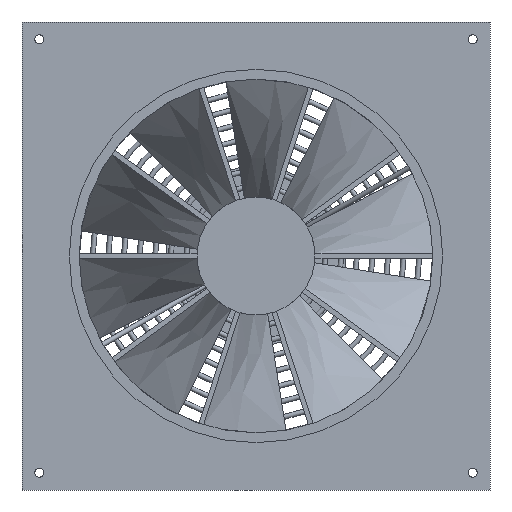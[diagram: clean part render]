
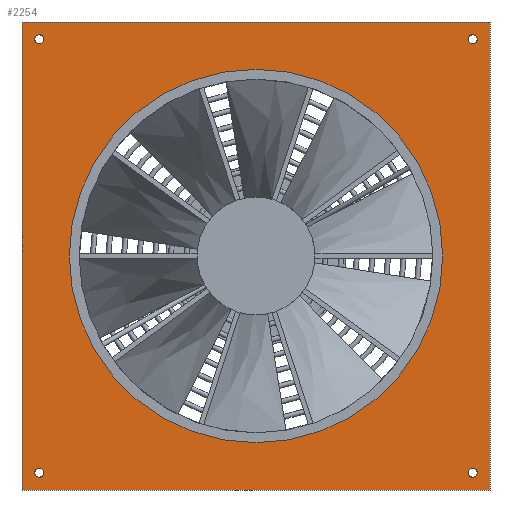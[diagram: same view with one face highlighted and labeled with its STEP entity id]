
A CAD part, front view. The second image highlights one B-rep face of the part: STEP entity #2254.
In plain terms, the highlighted planar face has unit normal (0, -1, 0).
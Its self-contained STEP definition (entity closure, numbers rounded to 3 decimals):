
#135=LINE('',#4945,#273);
#137=LINE('',#4952,#275);
#139=LINE('',#4958,#277);
#140=LINE('',#4960,#278);
#273=VECTOR('',#2796,10.);
#275=VECTOR('',#2804,10.);
#277=VECTOR('',#2810,10.);
#278=VECTOR('',#2813,10.);
#403=PLANE('',#2425);
#453=FACE_BOUND('',#817,.T.);
#454=FACE_BOUND('',#818,.T.);
#455=FACE_BOUND('',#819,.T.);
#456=FACE_BOUND('',#820,.T.);
#457=FACE_BOUND('',#821,.T.);
#527=CIRCLE('',#2414,4.5);
#528=CIRCLE('',#2416,4.5);
#529=CIRCLE('',#2418,4.5);
#530=CIRCLE('',#2420,4.5);
#532=CIRCLE('',#2423,189.5);
#654=FACE_OUTER_BOUND('',#816,.T.);
#816=EDGE_LOOP('',(#2090,#2091,#2092,#2093));
#817=EDGE_LOOP('',(#2094));
#818=EDGE_LOOP('',(#2095));
#819=EDGE_LOOP('',(#2096));
#820=EDGE_LOOP('',(#2097));
#821=EDGE_LOOP('',(#2098));
#1101=VERTEX_POINT('',#4942);
#1102=VERTEX_POINT('',#4944);
#1104=VERTEX_POINT('',#4950);
#1106=VERTEX_POINT('',#4956);
#1122=VERTEX_POINT('',#5119);
#1123=VERTEX_POINT('',#5122);
#1124=VERTEX_POINT('',#5125);
#1125=VERTEX_POINT('',#5128);
#1127=VERTEX_POINT('',#5133);
#1397=EDGE_CURVE('',#1102,#1101,#135,.T.);
#1401=EDGE_CURVE('',#1101,#1104,#137,.T.);
#1404=EDGE_CURVE('',#1104,#1106,#139,.T.);
#1405=EDGE_CURVE('',#1106,#1102,#140,.T.);
#1439=EDGE_CURVE('',#1122,#1122,#527,.T.);
#1440=EDGE_CURVE('',#1123,#1123,#528,.T.);
#1441=EDGE_CURVE('',#1124,#1124,#529,.T.);
#1442=EDGE_CURVE('',#1125,#1125,#530,.T.);
#1444=EDGE_CURVE('',#1127,#1127,#532,.T.);
#2090=ORIENTED_EDGE('',*,*,#1397,.T.);
#2091=ORIENTED_EDGE('',*,*,#1401,.T.);
#2092=ORIENTED_EDGE('',*,*,#1404,.T.);
#2093=ORIENTED_EDGE('',*,*,#1405,.T.);
#2094=ORIENTED_EDGE('',*,*,#1439,.T.);
#2095=ORIENTED_EDGE('',*,*,#1440,.T.);
#2096=ORIENTED_EDGE('',*,*,#1441,.T.);
#2097=ORIENTED_EDGE('',*,*,#1442,.T.);
#2098=ORIENTED_EDGE('',*,*,#1444,.T.);
#2254=ADVANCED_FACE('',(#654,#453,#454,#455,#456,#457),#403,.F.);
#2414=AXIS2_PLACEMENT_3D('',#5120,#2868,#2869);
#2416=AXIS2_PLACEMENT_3D('',#5123,#2872,#2873);
#2418=AXIS2_PLACEMENT_3D('',#5126,#2876,#2877);
#2420=AXIS2_PLACEMENT_3D('',#5129,#2880,#2881);
#2423=AXIS2_PLACEMENT_3D('',#5134,#2886,#2887);
#2425=AXIS2_PLACEMENT_3D('',#5136,#2890,#2891);
#2796=DIRECTION('',(1.,0.,0.));
#2804=DIRECTION('',(0.,0.,1.));
#2810=DIRECTION('',(-1.,0.,0.));
#2813=DIRECTION('',(0.,0.,-1.));
#2868=DIRECTION('center_axis',(0.,1.,0.));
#2869=DIRECTION('ref_axis',(1.,0.,0.));
#2872=DIRECTION('center_axis',(0.,1.,0.));
#2873=DIRECTION('ref_axis',(1.,0.,0.));
#2876=DIRECTION('center_axis',(0.,1.,0.));
#2877=DIRECTION('ref_axis',(1.,0.,0.));
#2880=DIRECTION('center_axis',(0.,1.,0.));
#2881=DIRECTION('ref_axis',(1.,0.,0.));
#2886=DIRECTION('center_axis',(0.,1.,0.));
#2887=DIRECTION('ref_axis',(-1.,0.,0.));
#2890=DIRECTION('center_axis',(0.,1.,0.));
#2891=DIRECTION('ref_axis',(0.,0.,1.));
#4942=CARTESIAN_POINT('',(237.5,0.,-237.5));
#4944=CARTESIAN_POINT('',(-237.5,0.,-237.5));
#4945=CARTESIAN_POINT('',(-237.5,0.,-237.5));
#4950=CARTESIAN_POINT('',(237.5,0.,237.5));
#4952=CARTESIAN_POINT('',(237.5,0.,-237.5));
#4956=CARTESIAN_POINT('',(-237.5,0.,237.5));
#4958=CARTESIAN_POINT('',(237.5,0.,237.5));
#4960=CARTESIAN_POINT('',(-237.5,0.,237.5));
#5119=CARTESIAN_POINT('',(-215.5,0.,-220.));
#5120=CARTESIAN_POINT('Origin',(-220.,0.,-220.));
#5122=CARTESIAN_POINT('',(224.5,0.,220.));
#5123=CARTESIAN_POINT('Origin',(220.,0.,220.));
#5125=CARTESIAN_POINT('',(224.5,0.,-220.));
#5126=CARTESIAN_POINT('Origin',(220.,0.,-220.));
#5128=CARTESIAN_POINT('',(-215.5,0.,220.));
#5129=CARTESIAN_POINT('Origin',(-220.,0.,220.));
#5133=CARTESIAN_POINT('',(189.5,0.,0.));
#5134=CARTESIAN_POINT('Origin',(0.,0.,0.));
#5136=CARTESIAN_POINT('Origin',(0.,0.,0.));
